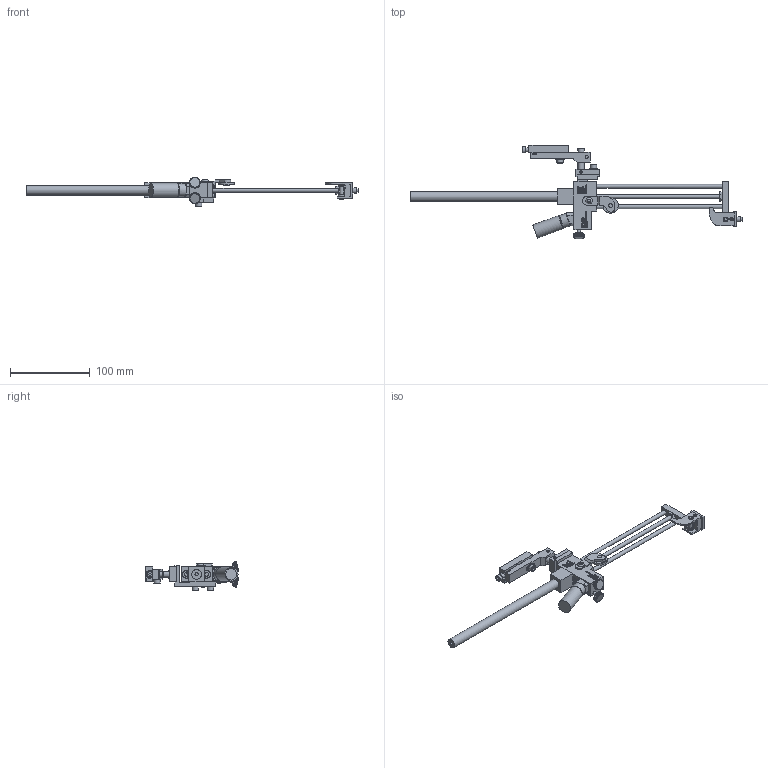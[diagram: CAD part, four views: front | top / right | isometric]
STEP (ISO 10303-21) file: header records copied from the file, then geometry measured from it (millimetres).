
FILE_DESCRIPTION((''),'2;1');
FILE_NAME('C:\Documents and Settings\Ron\My Documents\Inventor\Sprinter Drawing\Machines in Inventor\Model 44\Dot\3-sixteenth\Ext Str\E4\Brkt\Ext\Model 44 E4 .187 dia dot Ext w Brkt.stp','2009-01-26T12:51:06',('Ron'),(''),'Autodesk Inventor 2008','Autodesk Inventor 2008','');
FILE_SCHEMA(('AUTOMOTIVE_DESIGN { 1 0 10303 214 1 1 1 1 }'));
Length unit declared in the file: inch
Products named in the file (1): Model 44 E4 .187 dia dot Ext w Brkt
Bounding box: 415.03 x 117.12 x 36.82 mm (x, y, z)
Volume: 121141.8 mm3; surface area: 59287.4 mm2
Topology: 27 solids, 27 shells, 6210 faces, 15413 edges, 9534 vertices
Faces by surface type: plane 4368, bspline 1318, cylinder 471, cone 47, torus 6
Full cylindrical faces by diameter (mm): 3.175 x4, 3.302 x1, 3.962 x1, 4.064 x7, 4.166 x1, 4.699 x1, 4.75 x5, 4.775 x1, 4.826 x7, 5.144 x1, 5.156 x5, 5.207 x2, 5.41 x2, 6.096 x1, 6.274 x2, 6.68 x1, 7.239 x1, 7.62 x1, 7.925 x7, 7.938 x1, 8.128 x1, 9.017 x1, 9.525 x2, 10.312 x4, 10.922 x1, 11.036 x1, 11.938 x2, 12.522 x1, 14.478 x1, 16.256 x1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
Entity records: 197780 total; most frequent: CARTESIAN_POINT 54114, ORIENTED_EDGE 30392, DIRECTION 23633, EDGE_CURVE 15196, VECTOR 11399, LINE 11399, VERTEX_POINT 9473, EDGE_LOOP 6771
